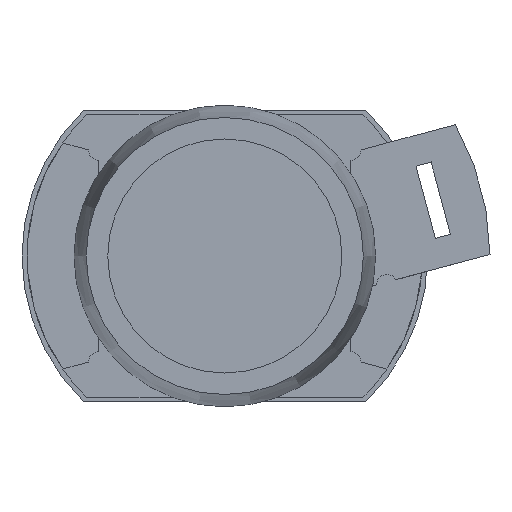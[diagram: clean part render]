
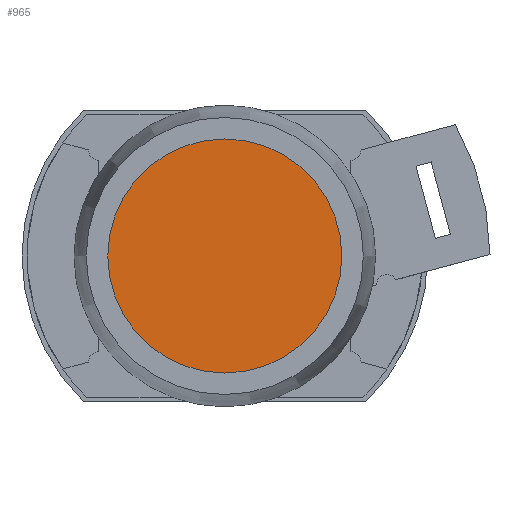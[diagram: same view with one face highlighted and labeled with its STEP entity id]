
A CAD part, left-side view. The second image highlights one B-rep face of the part: STEP entity #965.
In plain terms, the highlighted planar face has unit normal (-1, 0, 0).
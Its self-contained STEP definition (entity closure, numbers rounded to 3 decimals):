
#681 = ORIENTED_EDGE ( 'NONE', *, *, #2045, .T. ) ;
#965 = ADVANCED_FACE ( 'NONE', ( #3517 ), #4870, .T. ) ;
#1215 = EDGE_LOOP ( 'NONE', ( #681 ) ) ;
#2045 = EDGE_CURVE ( 'NONE', #8137, #8137, #6749, .T. ) ;
#2500 = AXIS2_PLACEMENT_3D ( 'NONE', #4873, #4879, #4880 ) ;
#3517 = FACE_OUTER_BOUND ( 'NONE', #1215, .T. ) ;
#4870 = PLANE ( 'NONE',  #2500 ) ;
#4873 = CARTESIAN_POINT ( 'NONE',  ( 1., 5.625, 0. ) ) ;
#4879 = DIRECTION ( 'NONE',  ( -1., 0., 0. ) ) ;
#4880 = DIRECTION ( 'NONE',  ( 0., 0., 1. ) ) ;
#6278 = CARTESIAN_POINT ( 'NONE',  ( 1., 0., 0. ) ) ;
#6279 = DIRECTION ( 'NONE',  ( -1., 0., 0. ) ) ;
#6280 = DIRECTION ( 'NONE',  ( 0., 0., -1. ) ) ;
#6749 = CIRCLE ( 'NONE', #7358, 11.25 ) ;
#7358 = AXIS2_PLACEMENT_3D ( 'NONE', #6278, #6279, #6280 ) ;
#8137 = VERTEX_POINT ( 'NONE', #8138 ) ;
#8138 = CARTESIAN_POINT ( 'NONE',  ( 1., 0., -11.25 ) ) ;
